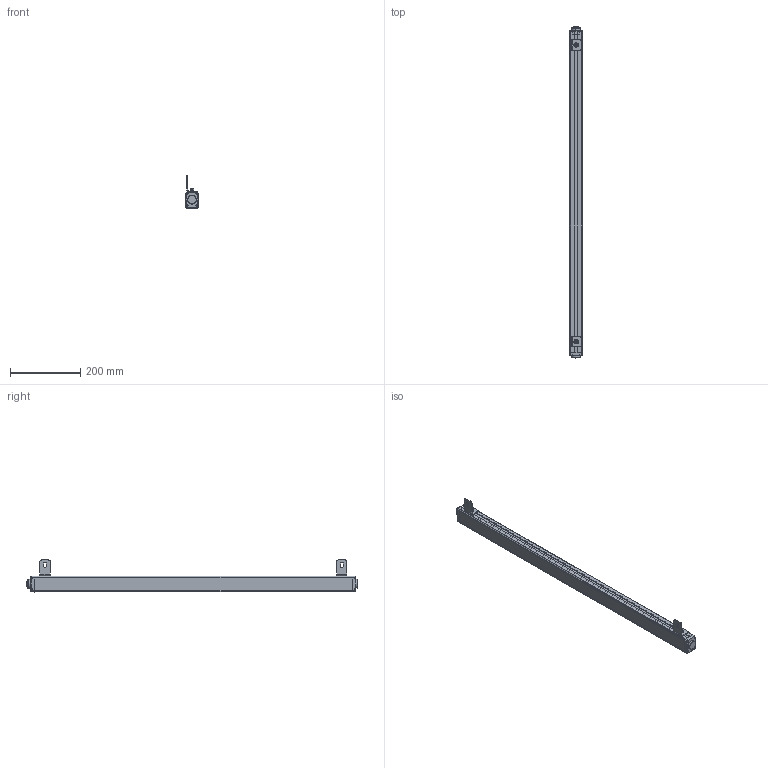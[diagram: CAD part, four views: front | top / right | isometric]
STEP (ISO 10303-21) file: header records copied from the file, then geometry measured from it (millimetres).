
FILE_DESCRIPTION((''),'2;1');
FILE_NAME('ESCL-00_ASM','2021-07-17T11:07:49',('18720616900'),(''),'CREO PARAMETRIC BY PTC INC, 2019010','CREO PARAMETRIC BY PTC INC, 2019010','');
FILE_SCHEMA(('CONFIG_CONTROL_DESIGN'));
Products named in the file (12): ESCL-00; ESCL-3-SOLID1000; ESCL-4-SOLID1000; HKCT1_-4-SOLID1; L10001; M6-8--0001; M6-1--00; M6-1-00; 00; M6-80001_ASM; L1--0001_ASM; ESCL-00_ASM
Assembly tree (12 placements, depth 4):
  ESCL-00_ASM
    ESCL-00
    ESCL-3-SOLID1000
    ESCL-4-SOLID1000
    HKCT1_-4-SOLID1
    L1--0001_ASM  x2
      L10001
      M6-80001_ASM
        M6-8--0001
        M6-1--00
        M6-1-00
        00
Bounding box: 36.1 x 945.1 x 91.11 mm (x, y, z)
Volume: 1348501.4 mm3; surface area: 205691.3 mm2
Topology: 14 solids, 14 shells, 625 faces, 1645 edges, 1070 vertices
Faces by surface type: plane 226, cylinder 208, cone 78, bspline 66, torus 47
Entity records: 76177 total; most frequent: CARTESIAN_POINT 63991, ORIENTED_EDGE 2664, DIRECTION 2275, EDGE_CURVE 1332, VERTEX_POINT 872, AXIS2_PLACEMENT_3D 816, VECTOR 643, LINE 643
